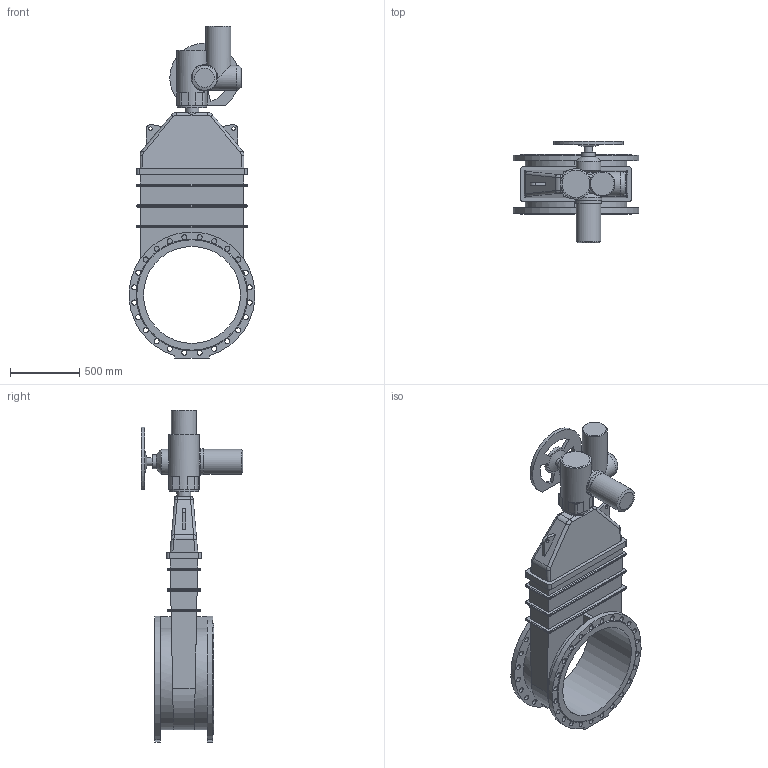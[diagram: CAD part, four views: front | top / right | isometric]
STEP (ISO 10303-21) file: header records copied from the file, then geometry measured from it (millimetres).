
FILE_DESCRIPTION(('STEP AP203'), '1');
FILE_NAME('青溻桄赅 47GVA DN700 PN10_PN16+MT903.A80', '', ('UNSPECIFIED'), ('UNSPECIFIED'), 'ASCON STEP Converter 1.6', 'ASCON Math Kernel', '');
FILE_SCHEMA(('CONFIG_CONTROL_DESIGN'));
Length unit declared in the file: millimetre
Bounding box: 907.25 x 733 x 2396 mm (x, y, z)
Volume: 216245887 mm3; surface area: 6717237 mm2
Topology: 2 solids, 2 shells, 334 faces, 978 edges, 627 vertices
Faces by surface type: cylinder 161, plane 129, bspline 32, cone 11, torus 1
Full cylindrical faces by diameter (mm): 17.5 x4, 22 x4, 25 x2, 37 x48, 50 x1, 60 x1, 100 x2, 130 x3, 140 x1, 180 x4, 187 x1, 191 x1, 210 x1, 220 x1, 700 x1
Entity records: 20285 total; most frequent: CARTESIAN_POINT 9008, ORIENTED_EDGE 1772, DIRECTION 1730, EDGE_CURVE 886, AXIS2_PLACEMENT_3D 692, VERTEX_POINT 623, EDGE_LOOP 517, FACE_BOUND 405
